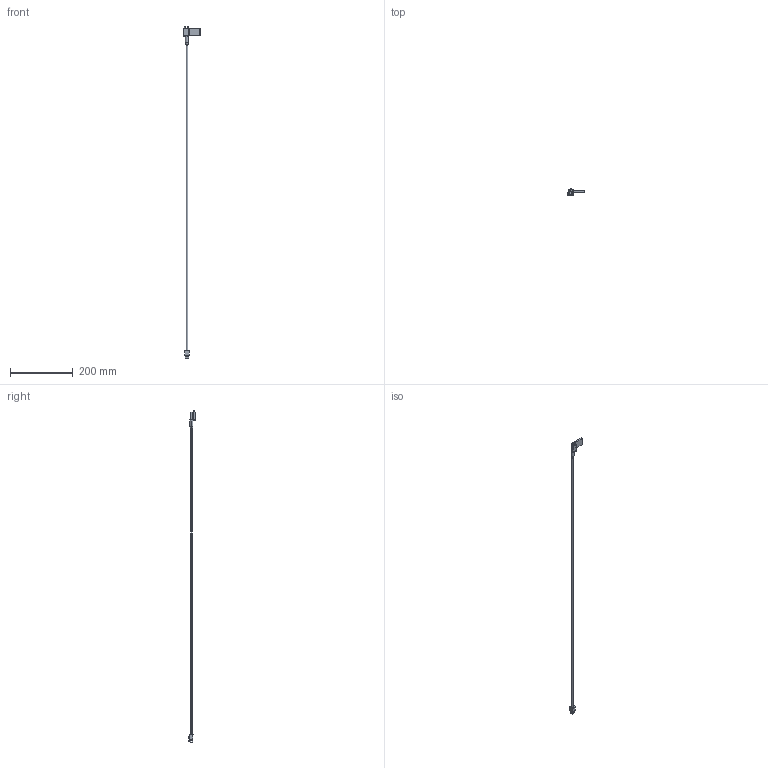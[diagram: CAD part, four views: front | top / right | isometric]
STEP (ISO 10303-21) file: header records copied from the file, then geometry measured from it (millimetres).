
FILE_DESCRIPTION (( 'STEP AP214' ), '1' );
FILE_NAME ('12ZP1420.STEP', '2013-10-10T05:52:41', ( '' ), ( '' ), 'SwSTEP 2.0', 'SolidWorks 2011', '' );
FILE_SCHEMA (( 'AUTOMOTIVE_DESIGN' ));
Length unit declared in the file: millimetre
Products named in the file (1): 12ZP1420
Bounding box: 53 x 21.56 x 1059.5 mm (x, y, z)
Volume: 34690.8 mm3; surface area: 24669.1 mm2
Topology: 6 solids, 6 shells, 188 faces, 437 edges, 272 vertices
Faces by surface type: plane 131, cylinder 33, cone 14, torus 10
Entity records: 5517 total; most frequent: CARTESIAN_POINT 1081, DIRECTION 877, ORIENTED_EDGE 862, EDGE_CURVE 431, LINE 323, VECTOR 323, AXIS2_PLACEMENT_3D 277, VERTEX_POINT 272
